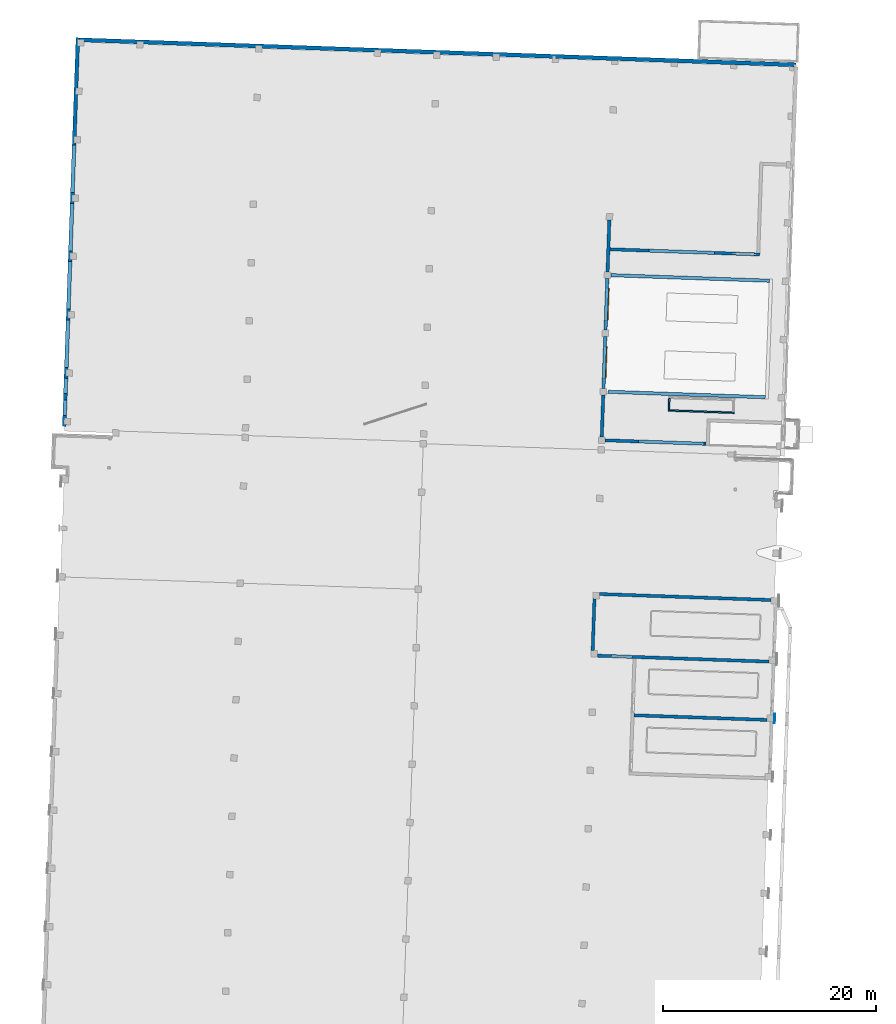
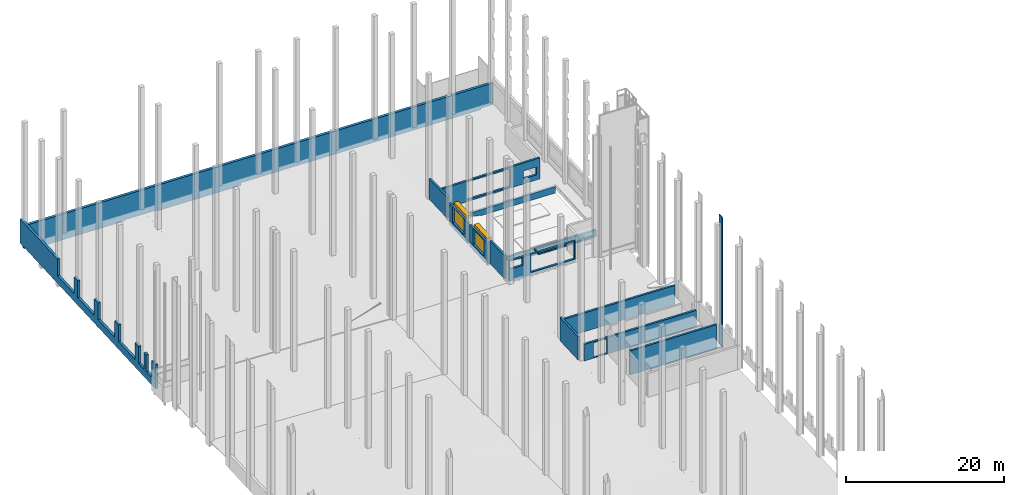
# One storey, part 34 of 44: 19 walls, 2 doors, 18 openings.
"""IFC2X3 building model written with IfcOpenShell, lengths in feet."""

from ifc_helpers import new_model, entity, si_unit, converted_unit, derived_unit, direction, frame, frame_2d, origin, origin_2d_with_axis, place, context, subcontext, project, spatial, polyline, rectangle, outline, extrude, clip, halfspace, source, transform, mapped, material, layer, layer_set, layer_usage, type_object, type_shapes, element, fill, save


model = new_model("IFC2X3")

# Units and contexts
model_context = context("Model", 3, precision=0.0001, world=origin(), true_north=direction((0.999390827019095, 0.0348994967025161)))
body_context = subcontext(model_context, "Body", "Model", "MODEL_VIEW")
ifc_project = project(units=[converted_unit("LENGTHUNIT", "FOOT", entity("IfcRatioMeasure", 0.3048), si_unit("LENGTHUNIT", "METRE"), dimensions=[1, 0, 0, 0, 0, 0, 0]), converted_unit("AREAUNIT", "SQUARE FOOT", entity("IfcRatioMeasure", 0.09290304), si_unit("AREAUNIT", "SQUARE_METRE"), dimensions=[2, 0, 0, 0, 0, 0, 0]), converted_unit("VOLUMEUNIT", "CUBIC FOOT", entity("IfcRatioMeasure", 0.028316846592), si_unit("VOLUMEUNIT", "CUBIC_METRE"), dimensions=[3, 0, 0, 0, 0, 0, 0]), converted_unit("PLANEANGLEUNIT", "DEGREE", entity("IfcRatioMeasure", 0.0174532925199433), si_unit("PLANEANGLEUNIT", "RADIAN"), dimensions=[0, 0, 0, 0, 0, 0, 0]), si_unit("MASSUNIT", "GRAM", prefix="KILO"), si_unit("TIMEUNIT", "SECOND"), si_unit("FREQUENCYUNIT", "HERTZ"), si_unit("THERMODYNAMICTEMPERATUREUNIT", "DEGREE_CELSIUS"), derived_unit("THERMALTRANSMITTANCEUNIT", [(si_unit("MASSUNIT", "GRAM", prefix="KILO"), 1), (si_unit("THERMODYNAMICTEMPERATUREUNIT", "KELVIN"), -1), (si_unit("TIMEUNIT", "SECOND"), -3)]), derived_unit("VOLUMETRICFLOWRATEUNIT", [(si_unit("LENGTHUNIT", "METRE"), 3), (si_unit("TIMEUNIT", "SECOND"), -1)]), si_unit("ELECTRICCURRENTUNIT", "AMPERE"), si_unit("ELECTRICVOLTAGEUNIT", "VOLT"), si_unit("POWERUNIT", "WATT"), si_unit("FORCEUNIT", "NEWTON"), si_unit("ILLUMINANCEUNIT", "LUX"), si_unit("LUMINOUSFLUXUNIT", "LUMEN"), si_unit("LUMINOUSINTENSITYUNIT", "CANDELA"), derived_unit("USERDEFINED", [(si_unit("MASSUNIT", "GRAM", prefix="KILO"), -1), (si_unit("LENGTHUNIT", "METRE"), -2), (si_unit("TIMEUNIT", "SECOND"), 3), (si_unit("LUMINOUSFLUXUNIT", "LUMEN"), 1)]), derived_unit("LINEARVELOCITYUNIT", [(si_unit("LENGTHUNIT", "METRE"), 1), (si_unit("TIMEUNIT", "SECOND"), -1)]), si_unit("PRESSUREUNIT", "PASCAL"), derived_unit("USERDEFINED", [(si_unit("LENGTHUNIT", "METRE"), -2), (si_unit("MASSUNIT", "GRAM", prefix="KILO"), 1), (si_unit("TIMEUNIT", "SECOND"), -2)])], contexts=[model_context])

# Site, building, storey
site_placement = place(None, frame((892.518771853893, 322.38689265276, 0.00393700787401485), z_axis=(0.0, 0.0, 1.0), x_axis=(0.0348994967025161, 0.999390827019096, 0.0)))
site = spatial("IfcSite", under=ifc_project, at=site_placement, Name="Default", CompositionType="ELEMENT")
building_placement = place(site_placement, origin())
building = spatial("IfcBuilding", under=site, at=building_placement, CompositionType="ELEMENT")
storey_placement = place(building_placement, frame((0.0, 0.0, 544.75)))
storey = spatial("IfcBuildingStorey", under=building, at=storey_placement, Name="Exist Garage - Ground Level", CompositionType="ELEMENT", Elevation=544.75)

# Wall, openings
ifc_material_1 = material(Name="Masonry - Brick")
ifc_layer_1 = layer(ifc_material_1, 0.302083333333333)
ifc_material_2 = material(Name="Misc. Air Layers - Air Space")
ifc_layer_2 = layer(ifc_material_2, 0.03125)
ifc_material_3 = material(Name="Concrete - Cast-in-Place Concrete_hatch surface")
ifc_layer_3 = layer(ifc_material_3, 0.833333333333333)
ifc_layer_set_1 = layer_set([ifc_layer_1, ifc_layer_2, ifc_layer_3], Name="Basic Wall:(existing)Exterior - Brick on Conc - 1'-2\"")
ifc_layer_usage_1 = layer_usage(ifc_layer_set_1, "AXIS2", "NEGATIVE", 0.583333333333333)
wall_type_1 = type_object("IfcWallType", Name="Basic Wall:(existing)Exterior - Brick on Conc - 1'-2\"", PredefinedType="STANDARD", material=ifc_layer_set_1)
wall_1_placement = place(storey_placement, frame((104.425420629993, 457.680620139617, 0.0)))
wall_1 = element("IfcWallStandardCase", 1, at=wall_1_placement, inside=storey, type_object=wall_type_1, material=ifc_layer_usage_1, Name="Basic Wall:(existing)Exterior - Brick on Conc - 1'-2\"", ObjectType="Basic Wall:(existing)Exterior - Brick on Conc - 1'-2\"", context=body_context, shape_type="SweptSolid", body=[
    extrude(rectangle(XDim=120.00187244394, YDim=1.16666666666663, at=frame_2d((60.00093622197, -3.21964677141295e-15), x_axis=(-1.0, 0.0))), origin(), (0.0, 0.0, 1.0), 12.25),
])
opening_1_placement = place(wall_1_placement, origin())
element("IfcOpeningElement", 2, at=opening_1_placement, cuts=wall_1, Name="Basic Wall:(existing)Exterior - Brick on Conc - 1'-2\"", ObjectType="Opening", context=body_context, shape_type="SweptSolid", body=[
    extrude(rectangle(XDim=8.44303385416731, YDim=14.6666666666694, at=frame_2d((-1.4210854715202e-14, -5.6843418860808e-14), x_axis=(0.0, 1.0))), frame((79.5018724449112, 0.583333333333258, 8.02848307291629), z_axis=(0.0, -1.0, 0.0), x_axis=(-1.0, 0.0, 0.0)), (0.0, 0.0, 1.0), 1.16666666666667),
])
opening_2_placement = place(wall_1_placement, origin())
element("IfcOpeningElement", 3, at=opening_2_placement, cuts=wall_1, Name="Basic Wall:(existing)Exterior - Brick on Conc - 1'-2\"", ObjectType="Opening", context=body_context, shape_type="SweptSolid", body=[
    extrude(rectangle(XDim=8.44303385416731, YDim=14.6666666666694, at=frame_2d((-1.4210854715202e-14, -5.6843418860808e-14), x_axis=(0.0, 1.0))), frame((61.5018724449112, 0.583333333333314, 8.02848307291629), z_axis=(0.0, -1.0, 0.0), x_axis=(-1.0, 0.0, 0.0)), (0.0, 0.0, 1.0), 1.16666666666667),
])
opening_3_placement = place(wall_1_placement, origin())
element("IfcOpeningElement", 4, at=opening_3_placement, cuts=wall_1, Name="Basic Wall:(existing)Exterior - Brick on Conc - 1'-2\"", ObjectType="Opening", context=body_context, shape_type="SweptSolid", body=[
    extrude(rectangle(XDim=8.44303385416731, YDim=14.6666666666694, at=frame_2d((1.4210854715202e-14, -5.6843418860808e-14), x_axis=(0.0, 1.0))), frame((43.5018724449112, 0.583333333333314, 8.02848307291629), z_axis=(0.0, -1.0, 0.0), x_axis=(-1.0, 0.0, 0.0)), (0.0, 0.0, 1.0), 1.16666666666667),
])
opening_4_placement = place(wall_1_placement, origin())
element("IfcOpeningElement", 5, at=opening_4_placement, cuts=wall_1, Name="Basic Wall:(existing)Exterior - Brick on Conc - 1'-2\"", ObjectType="Opening", context=body_context, shape_type="SweptSolid", body=[
    extrude(rectangle(XDim=8.44303385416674, YDim=14.6666666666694, at=frame_2d((-7.105427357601e-15, 0.0), x_axis=(0.0, 1.0))), frame((25.5018724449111, 0.583333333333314, 8.02848307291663), z_axis=(0.0, -1.0, 0.0), x_axis=(-1.0, 0.0, 0.0)), (0.0, 0.0, 1.0), 1.16666666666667),
])
opening_5_placement = place(wall_1_placement, origin())
element("IfcOpeningElement", 6, at=opening_5_placement, cuts=wall_1, Name="Basic Wall:(existing)Exterior - Brick on Conc - 1'-2\"", ObjectType="Opening", context=body_context, shape_type="SweptSolid", body=[
    extrude(rectangle(XDim=8.44303385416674, YDim=4.75093622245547, at=frame_2d((1.4210854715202e-14, 0.0), x_axis=(0.0, 1.0))), frame((12.4597376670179, 0.583333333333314, 8.02848307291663), z_axis=(0.0, -1.0, 0.0), x_axis=(-1.0, 0.0, 0.0)), (0.0, 0.0, 1.0), 1.16666666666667),
])
opening_6_placement = place(wall_1_placement, origin())
element("IfcOpeningElement", 7, at=opening_6_placement, cuts=wall_1, Name="Basic Wall:(existing)Exterior - Brick on Conc - 1'-2\"", ObjectType="Opening", context=body_context, shape_type="SweptSolid", body=[
    extrude(rectangle(XDim=8.44303385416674, YDim=4.75093622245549, at=frame_2d((0.0, 0.0), x_axis=(0.0, 1.0))), frame((5.70880144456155, 0.583333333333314, 8.02848307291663), z_axis=(0.0, -1.0, 0.0), x_axis=(-1.0, 0.0, 0.0)), (0.0, 0.0, 1.0), 1.16666666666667),
])

ifc_material_4 = material(Name="Concrete - Cast-in-Place Concrete")
ifc_layer_4 = layer(ifc_material_4, 1.25)
ifc_layer_set_2 = layer_set([ifc_layer_4], Name="Basic Wall:Exterior - Below Grade Conc 15\"")
ifc_layer_usage_2 = layer_usage(ifc_layer_set_2, "AXIS2", "NEGATIVE", 0.625)
wall_type_2 = type_object("IfcWallType", Name="Basic Wall:Exterior - Below Grade Conc 15\"", PredefinedType="STANDARD", material=ifc_layer_set_2)
wall_2_placement = place(storey_placement, frame((223.802293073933, 457.097286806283, -4.08000000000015), z_axis=(0.0, 0.0, 1.0), x_axis=(0.0, -1.0, 0.0)))
wall_2 = element("IfcWallStandardCase", 8, at=wall_2_placement, inside=storey, type_object=wall_type_2, material=ifc_layer_usage_2, Name="Basic Wall:Exterior - Below Grade Conc 15\"", ObjectType="Basic Wall:Exterior - Below Grade Conc 15\"", context=body_context, shape_type="Clipping", body=[
    clip(clip(clip(extrude(rectangle(XDim=221.249999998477, YDim=1.25, at=frame_2d((110.624999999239, -1.4432899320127e-15), x_axis=(-1.0, 0.0))), origin(), (0.0, 0.0, 1.0), 13.0500000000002), halfspace(frame((215.651041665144, 0.0, 1.33000000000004), z_axis=(0.0117361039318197, 0.0, -0.999931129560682), x_axis=(0.0, -1.0, 0.0)), False)), halfspace(frame((5.33333333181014, 0.0, 0.0), z_axis=(-0.239574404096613, 0.0, -0.970878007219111), x_axis=(0.0, -1.0, 0.0)), False)), halfspace(frame((221.249999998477, 0.0, 2.06000000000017), z_axis=(0.129287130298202, 0.0, -0.99160719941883), x_axis=(0.0, -1.0, 0.0)), False)),
])
opening_7_placement = place(wall_2_placement, origin())
element("IfcOpeningElement", 9, at=opening_7_placement, cuts=wall_2, Name="Basic Wall:Exterior - Below Grade Conc 15\"", ObjectType="Opening", context=body_context, shape_type="SweptSolid", body=[
    extrude(outline(polyline([(-3.73263888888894, -0.243333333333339), (1.86631944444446, -0.243333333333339), (1.86631944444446, 0.486666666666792), (-3.73263888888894, -0.243333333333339)])), frame((217.517361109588, 0.625000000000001, 1.81666666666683), z_axis=(0.0, -1.0, 0.0), x_axis=(-1.0, 0.0, 0.0)), (0.0, 0.0, 1.0), 1.25),
])
opening_8_placement = place(wall_2_placement, origin())
element("IfcOpeningElement", 10, at=opening_8_placement, cuts=wall_2, Name="Basic Wall:Exterior - Below Grade Conc 15\"", ObjectType="Opening", context=body_context, shape_type="SweptSolid", body=[
    extrude(outline(polyline([(-75.5451388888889, -0.443333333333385), (37.7725694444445, -0.443333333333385), (37.7725694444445, 0.886666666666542), (-75.5451388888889, -0.443333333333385)])), frame((140.105902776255, 0.624999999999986, 0.886666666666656), z_axis=(0.0, -1.0, 0.0), x_axis=(-1.0, 0.0, 0.0)), (0.0, 0.0, 1.0), 1.25),
])
opening_9_placement = place(wall_2_placement, origin())
element("IfcOpeningElement", 11, at=opening_9_placement, cuts=wall_2, Name="Basic Wall:Exterior - Below Grade Conc 15\"", ObjectType="Opening", context=body_context, shape_type="SweptSolid", body=[
    extrude(rectangle(XDim=0.500000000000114, YDim=16.0000000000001, at=frame_2d((-5.6843418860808e-14, 2.8421709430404e-14), x_axis=(1.0, 0.0))), frame((55.3333333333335, 0.625000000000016, 0.250000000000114), z_axis=(0.0, -1.0, 0.0), x_axis=(0.0, 0.0, 1.0)), (0.0, 0.0, 1.0), 1.25),
])
opening_10_placement = place(wall_2_placement, origin())
element("IfcOpeningElement", 12, at=opening_10_placement, cuts=wall_2, Name="Basic Wall:Exterior - Below Grade Conc 15\"", ObjectType="Opening", context=body_context, shape_type="SweptSolid", body=[
    extrude(outline(polyline([(-0.973333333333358, -1.9722222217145), (0.486666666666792, -1.9722222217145), (0.486666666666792, 3.94444444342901), (-0.973333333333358, -1.9722222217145)])), frame((3.36111111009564, 0.624999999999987, 0.973333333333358), z_axis=(0.0, -1.0, 0.0), x_axis=(0.0, 0.0, 1.0)), (0.0, 0.0, 1.0), 1.25),
])

# Walls
ifc_layer_5 = layer(ifc_material_1, 0.302083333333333)
ifc_layer_set_3 = layer_set([ifc_layer_5], Name="Basic Wall:(Existing) Exterior - Brick Veneer 3 5/8\"")
ifc_layer_usage_3 = layer_usage(ifc_layer_set_3, "AXIS2", "POSITIVE", -0.151041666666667)
wall_type_3 = type_object("IfcWallType", Name="Basic Wall:(Existing) Exterior - Brick Veneer 3 5/8\"", PredefinedType="STANDARD", material=ifc_layer_set_3)
wall_3_placement = place(storey_placement, frame((20.4272542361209, 235.41499514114, 0.0)))
element("IfcWallStandardCase", 13, at=wall_3_placement, inside=storey, type_object=wall_type_3, material=ifc_layer_usage_3, Name="Basic Wall:(Existing) Exterior - Brick Veneer 3 5/8\"", ObjectType="Basic Wall:(Existing) Exterior - Brick Veneer 3 5/8\"", context=body_context, shape_type="SweptSolid", body=[
    extrude(rectangle(XDim=3.00000000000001, YDim=0.302083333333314, at=frame_2d((1.50000000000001, 0.0), x_axis=(-1.0, 0.0))), origin(), (0.0, 0.0, 1.0), 65.8125),
])
ifc_layer_6 = layer(ifc_material_3, 1.0)
ifc_layer_set_4 = layer_set([ifc_layer_6], Name="Basic Wall:(existing)Exterior - 12\" Conc")
ifc_layer_usage_4 = layer_usage(ifc_layer_set_4, "AXIS2", "POSITIVE", -0.5)
wall_type_4 = type_object("IfcWallType", Name="Basic Wall:(existing)Exterior - 12\" Conc", PredefinedType="STANDARD", material=ifc_layer_set_4)
wall_4_placement = place(storey_placement, frame((157.927293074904, 291.765300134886, -1.0)))
element("IfcWallStandardCase", 14, at=wall_4_placement, inside=storey, type_object=wall_type_4, material=ifc_layer_usage_4, Name="Basic Wall:(existing)Exterior - 12\" Conc", ObjectType="Basic Wall:(existing)Exterior - 12\" Conc", context=body_context, shape_type="Clipping", body=[
    clip(extrude(rectangle(XDim=16.0, YDim=1.0, at=frame_2d((8.0, 0.0), x_axis=(-1.0, 0.0))), origin(), (0.0, 0.0, 1.0), 10.8623073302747), halfspace(frame((0.0, -0.5, 10.8623073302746), z_axis=(0.0347362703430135, 0.0, 0.999396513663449), x_axis=(0.0, 1.0, 0.0)), False)),
])
ifc_layer_usage_5 = layer_usage(ifc_layer_set_4, "AXIS2", "POSITIVE", -0.5)
wall_5_placement = place(storey_placement, frame((106.927293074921, 291.764351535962, -0.333333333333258)))
element("IfcWallStandardCase", 15, at=wall_5_placement, inside=storey, type_object=wall_type_4, material=ifc_layer_usage_5, Name="Basic Wall:(existing)Exterior - 12\" Conc", ObjectType="Basic Wall:(existing)Exterior - 12\" Conc", context=body_context, shape_type="Clipping", body=[
    clip(extrude(rectangle(XDim=12.9999999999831, YDim=1.0, at=frame_2d((6.49999999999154, 0.0), x_axis=(-1.0, 0.0))), origin(), (0.0, 0.0, 1.0), 11.9617458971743), halfspace(frame((0.0, -0.5, 11.9617458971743), z_axis=(0.0348994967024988, 0.0, 0.999390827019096), x_axis=(0.0, 1.0, 0.0)), False)),
])
ifc_material_5 = material(Name="Masonry - Concrete Masonry Units")
ifc_layer_7 = layer(ifc_material_5, 0.96875)
ifc_layer_set_5 = layer_set([ifc_layer_7], Name="Basic Wall:Interior - (C12) 12\" cmu")
ifc_layer_usage_6 = layer_usage(ifc_layer_set_5, "AXIS2", "NEGATIVE", 0.484375)
wall_type_5 = type_object("IfcWallType", Name="Basic Wall:Interior - (C12) 12\" cmu", PredefinedType="STANDARD", material=ifc_layer_set_5)
wall_6_placement = place(storey_placement, frame((58.4428792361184, 237.763953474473, -0.612544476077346), z_axis=(0.0, 0.0, 1.0), x_axis=(0.0, 1.0, 0.0)))
element("IfcWallStandardCase", 16, at=wall_6_placement, inside=storey, type_object=wall_type_5, material=ifc_layer_usage_6, Name="Basic Wall:Interior - (C12) 12\" cmu", ObjectType="Basic Wall:Interior - (C12) 12\" cmu", context=body_context, shape_type="SweptSolid", body=[
    extrude(rectangle(XDim=53.0, YDim=0.96875, at=frame_2d((26.5, 0.0), x_axis=(-1.0, 0.0))), origin(), (0.0, 0.0, 1.0), 9.49848961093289),
])
ifc_layer_usage_7 = layer_usage(ifc_layer_set_5, "AXIS2", "NEGATIVE", 0.484375)
wall_7_placement = place(storey_placement, frame((56.9272542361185, 292.279578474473, -0.416666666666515), z_axis=(0.0, 0.0, 1.0), x_axis=(-1.0, 0.0, 0.0)))
element("IfcWallStandardCase", 17, at=wall_7_placement, inside=storey, type_object=wall_type_5, material=ifc_layer_usage_7, Name="Basic Wall:Interior - (C12) 12\" cmu", ObjectType="Basic Wall:Interior - (C12) 12\" cmu", context=body_context, shape_type="SweptSolid", body=[
    extrude(rectangle(XDim=16.0, YDim=0.96875, at=frame_2d((8.0, 0.0), x_axis=(-1.0, 0.0))), origin(), (0.0, 0.0, 1.0), 11.8498357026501),
])

# Wall, opening
ifc_layer_usage_8 = layer_usage(ifc_layer_set_5, "AXIS2", "POSITIVE", -0.484375)
wall_8_placement = place(storey_placement, frame((39.4116292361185, 290.763953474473, -0.416666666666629), z_axis=(0.0, 0.0, 1.0), x_axis=(0.0, -1.0, 0.0)))
wall_8 = element("IfcWallStandardCase", 18, at=wall_8_placement, inside=storey, type_object=wall_type_5, material=ifc_layer_usage_8, Name="Basic Wall:Interior - (C12) 12\" cmu", ObjectType="Basic Wall:Interior - (C12) 12\" cmu", context=body_context, shape_type="SweptSolid", body=[
    extrude(rectangle(XDim=53.0000000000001, YDim=0.96875, at=frame_2d((26.5, 0.0), x_axis=(-1.0, 0.0))), origin(), (0.0, 0.0, 1.0), 8.4012032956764),
])
opening_11_placement = place(wall_8_placement, frame((10.6666666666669, 0.484374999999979, 0.416666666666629)))
element("IfcOpeningElement", 19, at=opening_11_placement, cuts=wall_8, Name="Exterior Double Flush:6'-0\" x 7'-0\" Metal_5.75\" x 4\":1", ObjectType="Opening", context=body_context, shape_type="SweptSolid", body=[
    extrude(rectangle(XDim=6.33333333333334, YDim=7.33333333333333, at=frame_2d((3.66666666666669, 3.16666666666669), x_axis=(0.0, -1.0))), frame((0.0, 0.0, 0.0), z_axis=(0.0, -1.0, 0.0), x_axis=(0.0, 0.0, 1.0)), (0.0, 0.0, 1.0), 0.96875),
])

# Wall
ifc_layer_usage_9 = layer_usage(ifc_layer_set_5, "AXIS2", "POSITIVE", -0.484375)
wall_9_placement = place(storey_placement, frame((21.4116292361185, 278.795203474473, -0.343615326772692), z_axis=(0.0, 0.0, 1.0), x_axis=(0.0, -1.0, 0.0)))
element("IfcWallStandardCase", 20, at=wall_9_placement, inside=storey, type_object=wall_type_5, material=ifc_layer_usage_9, Name="Basic Wall:Interior - (C12) 12\" cmu", ObjectType="Basic Wall:Interior - (C12) 12\" cmu", context=body_context, shape_type="SweptSolid", body=[
    extrude(rectangle(XDim=41.0312499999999, YDim=0.96875, at=frame_2d((20.5156249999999, -7.49400541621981e-16), x_axis=(-1.0, 0.0))), origin(), (0.0, 0.0, 1.0), 12.1769486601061),
])

# Wall, openings
ifc_layer_usage_10 = layer_usage(ifc_layer_set_5, "AXIS2", "NEGATIVE", 0.484375)
wall_10_placement = place(storey_placement, frame((105.927293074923, 259.477165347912, -1.0776113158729), z_axis=(0.0, 0.0, 1.0), x_axis=(0.0, 1.0, 0.0)))
wall_10 = element("IfcWallStandardCase", 21, at=wall_10_placement, inside=storey, type_object=wall_type_5, material=ifc_layer_usage_10, Name="Basic Wall:Interior - (C12) 12\" cmu", ObjectType="Basic Wall:Interior - (C12) 12\" cmu", context=body_context, shape_type="SweptSolid", body=[
    extrude(rectangle(XDim=31.2867881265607, YDim=0.96875, at=frame_2d((15.6433940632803, -3.49720252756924e-15), x_axis=(-1.0, 0.0))), origin(), (0.0, 0.0, 1.0), 10.3575592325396),
])
opening_12_placement = place(wall_10_placement, origin())
element("IfcOpeningElement", 22, at=opening_12_placement, cuts=wall_10, Name="Basic Wall:Interior - (C12) 12\" cmu", ObjectType="Opening", context=body_context, shape_type="SweptSolid", body=[
    extrude(rectangle(XDim=9.0, YDim=20.3333333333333, at=frame_2d((-2.8421709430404e-14, 0.0), x_axis=(0.0, 1.0))), frame((10.7867881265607, -5.48437500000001, 5.74427798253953), z_axis=(0.0, 1.0, 0.0), x_axis=(1.0, 0.0, 0.0)), (0.0, 0.0, 1.0), 10.0),
])
opening_13_placement = place(wall_10_placement, origin())
element("IfcOpeningElement", 23, at=opening_13_placement, cuts=wall_10, Name="Basic Wall:Interior - (C12) 12\" cmu", ObjectType="Opening", context=body_context, shape_type="SweptSolid", body=[
    extrude(rectangle(XDim=4.0, YDim=6.0, at=origin_2d_with_axis()), frame((27.9534547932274, -4.515625, 8.0776113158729), z_axis=(0.0, 1.0, 0.0), x_axis=(0.0, 0.0, -1.0)), (0.0, 0.0, 1.0), 10.0),
])

# Wall, opening, door
ifc_layer_usage_11 = layer_usage(ifc_layer_set_5, "AXIS2", "NEGATIVE", 0.484375)
wall_11_placement = place(storey_placement, frame((121.927293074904, 291.763953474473, -0.584424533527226)))
wall_11 = element("IfcWallStandardCase", 24, at=wall_11_placement, inside=storey, type_object=wall_type_5, material=ifc_layer_usage_11, Name="Basic Wall:Interior - (C12) 12\" cmu", ObjectType="Basic Wall:Interior - (C12) 12\" cmu", context=body_context, shape_type="Clipping", body=[
    clip(clip(extrude(rectangle(XDim=16.0, YDim=0.96875, at=frame_2d((7.99999999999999, 0.0), x_axis=(-1.0, 0.0))), origin(), (0.0, 0.0, 1.0), 9.32618654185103), halfspace(frame((16.0, -0.484375, 0.0), z_axis=(-0.0126943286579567, 0.0, -0.999919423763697), x_axis=(0.0, 1.0, 0.0)), False)), halfspace(frame((0.0, -0.484375, 9.32618654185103), z_axis=(0.0366420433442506, 0.0, 0.99932845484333), x_axis=(0.0, 1.0, 0.0)), False)),
])
opening_14_placement = place(wall_11_placement, frame((13.0, 0.484375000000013, 0.584424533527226)))
opening_14 = element("IfcOpeningElement", 25, at=opening_14_placement, cuts=wall_11, Name="Overhead-Rolling:8' x 10'-0\":1", ObjectType="Opening", context=body_context, shape_type="SweptSolid", body=[
    extrude(rectangle(XDim=7.99999999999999, YDim=10.0, at=frame_2d((4.0, 5.0), x_axis=(1.0, 0.0))), frame((0.0, 0.0, 0.0), z_axis=(0.0, -1.0, 0.0), x_axis=(0.0, 0.0, 1.0)), (0.0, 0.0, 1.0), 0.96875),
])
ifc_material_6 = material(Name="Metal - Paint Finish - Ivory, Matte")
door_style = type_object("IfcDoorStyle", Name="8' x 10'-0\"", ConstructionType="NOTDEFINED", OperationType="NOTDEFINED", ParameterTakesPrecedence=False, Sizeable=False, material=ifc_material_6)
shared_shape = source(origin(), body_context, "Body", "SweptSolid", [
    extrude(rectangle(XDim=0.25, YDim=10.0, at=origin_2d_with_axis()), frame((5.0, -0.12499999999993, 0.0), z_axis=(0.0, 0.0, 1.0), x_axis=(0.0, -1.0, 0.0)), (0.0, 0.0, 1.0), 7.99999999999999),
    extrude(rectangle(XDim=11.3333333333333, YDim=2.08333333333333, at=frame_2d((0.0, -1.11022302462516e-16), x_axis=(1.0, 0.0))), frame((5.0, -1.0416666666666, 8.0)), (0.0, 0.0, 1.0), 1.49999999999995),
])
type_shapes(door_style, [shared_shape])
door_1_placement = place(opening_14_placement, frame((-10.0, -0.968750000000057, 0.0)))
door_1 = element("IfcDoor", 26, at=door_1_placement, inside=storey, type_object=door_style, material=ifc_material_6, Name="Overhead-Rolling:8' x 10'-0\"", ObjectType="8' x 10'-0\"", OverallHeight=8.0, OverallWidth=10.0, context=body_context, shape_type="MappedRepresentation", body=[
    mapped(shared_shape, transform((0.0, 0.0, 0.0), scale=1.0)),
])
fill(opening_14, door_1)

ifc_layer_usage_12 = layer_usage(ifc_layer_set_5, "AXIS2", "NEGATIVE", 0.484375)
wall_12_placement = place(storey_placement, frame((139.927293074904, 291.763953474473, -0.822302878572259)))
wall_12 = element("IfcWallStandardCase", 27, at=wall_12_placement, inside=storey, type_object=wall_type_5, material=ifc_layer_usage_12, Name="Basic Wall:Interior - (C12) 12\" cmu", ObjectType="Basic Wall:Interior - (C12) 12\" cmu", context=body_context, shape_type="Clipping", body=[
    clip(extrude(rectangle(XDim=16.0, YDim=0.96875, at=frame_2d((8.0, 0.0), x_axis=(-1.0, 0.0))), origin(), (0.0, 0.0, 1.0), 8.90466758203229), halfspace(frame((16.0, -0.484375, 0.0), z_axis=(-0.0132448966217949, 0.0, -0.99991228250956), x_axis=(0.0, 1.0, 0.0)), False)),
])
opening_15_placement = place(wall_12_placement, frame((13.0, 0.484375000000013, 0.822302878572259)))
opening_15 = element("IfcOpeningElement", 28, at=opening_15_placement, cuts=wall_12, Name="Overhead-Rolling:8' x 10'-0\":1", ObjectType="Opening", context=body_context, shape_type="SweptSolid", body=[
    extrude(rectangle(XDim=7.99999999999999, YDim=10.0, at=frame_2d((4.0, 5.0), x_axis=(1.0, 0.0))), frame((0.0, 0.0, 0.0), z_axis=(0.0, -1.0, 0.0), x_axis=(0.0, 0.0, 1.0)), (0.0, 0.0, 1.0), 0.96875),
])
door_2_placement = place(opening_15_placement, frame((-10.0, -0.968750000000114, 0.0)))
door_2 = element("IfcDoor", 29, at=door_2_placement, inside=storey, type_object=door_style, material=ifc_material_6, Name="Overhead-Rolling:8' x 10'-0\"", ObjectType="8' x 10'-0\"", OverallHeight=8.0, OverallWidth=10.0, context=body_context, shape_type="MappedRepresentation", body=[
    mapped(shared_shape, transform((0.0, 0.0, 0.0), scale=1.0)),
])
fill(opening_15, door_2)

# Wall, openings
ifc_layer_usage_13 = layer_usage(ifc_layer_set_5, "AXIS2", "NEGATIVE", 0.484375)
wall_13_placement = place(storey_placement, frame((164.906598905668, 291.265300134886, -0.926601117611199), z_axis=(0.0, 0.0, 1.0), x_axis=(0.0, -1.0, 0.0)))
wall_13 = element("IfcWallStandardCase", 30, at=wall_13_placement, inside=storey, type_object=wall_type_5, material=ifc_layer_usage_13, Name="Basic Wall:Interior - (C12) 12\" cmu", ObjectType="Basic Wall:Interior - (C12) 12\" cmu", context=body_context, shape_type="Clipping", body=[
    clip(clip(extrude(rectangle(XDim=46.2639933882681, YDim=0.96875, at=frame_2d((23.131996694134, 1.49880108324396e-15), x_axis=(-1.0, 0.0))), origin(), (0.0, 0.0, 1.0), 11.1837966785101), halfspace(frame((46.2639933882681, -0.484375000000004, 0.479004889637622), z_axis=(0.0103531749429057, 0.0, -0.999946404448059), x_axis=(0.0, 1.0, 0.0)), False)), halfspace(frame((0.0, -0.484375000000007, 10.496528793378), z_axis=(-0.0148537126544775, 0.0, 0.999889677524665), x_axis=(0.0, 1.0, 0.0)), False)),
])
opening_16_placement = place(wall_13_placement, origin())
element("IfcOpeningElement", 31, at=opening_16_placement, cuts=wall_13, Name="Basic Wall:Interior - (C12) 12\" cmu", ObjectType="Opening", context=body_context, shape_type="SweptSolid", body=[
    extrude(rectangle(XDim=9.0, YDim=20.3333333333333, at=frame_2d((0.0, 2.8421709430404e-14), x_axis=(1.0, 0.0))), frame((22.1666666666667, -4.51562499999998, 5.59326778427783), z_axis=(0.0, 1.0, 0.0), x_axis=(0.0, 0.0, -1.0)), (0.0, 0.0, 1.0), 10.0),
])
opening_17_placement = place(wall_13_placement, origin())
element("IfcOpeningElement", 32, at=opening_17_placement, cuts=wall_13, Name="Basic Wall:Interior - (C12) 12\" cmu", ObjectType="Opening", context=body_context, shape_type="SweptSolid", body=[
    extrude(rectangle(XDim=4.0, YDim=6.0, at=frame_2d((0.0, 0.0), x_axis=(0.0, 1.0))), frame((41.6590185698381, -5.48437500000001, 5.01514278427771), z_axis=(0.0, 1.0, 0.0), x_axis=(1.0, 0.0, 0.0)), (0.0, 0.0, 1.0), 10.0),
])

# Wall, opening
ifc_layer_8 = layer(ifc_material_4, 1.0)
ifc_layer_set_6 = layer_set([ifc_layer_8], Name="Basic Wall:Exterior - Below Grade Conc 12\"")
ifc_layer_usage_14 = layer_usage(ifc_layer_set_6, "AXIS2", "NEGATIVE", 0.5)
wall_type_6 = type_object("IfcWallType", Name="Basic Wall:Exterior - Below Grade Conc 12\"", PredefinedType="STANDARD", material=ifc_layer_set_6)
wall_14_placement = place(storey_placement, frame((156.927386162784, 290.718492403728, -3.68666666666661), z_axis=(0.0, 0.0, 1.0), x_axis=(0.0, -1.0, 0.0)))
wall_14 = element("IfcWallStandardCase", 33, at=wall_14_placement, inside=storey, type_object=wall_type_6, material=ifc_layer_usage_14, Name="Basic Wall:Exterior - Below Grade Conc 12\"", ObjectType="Basic Wall:Exterior - Below Grade Conc 12\"", context=body_context, shape_type="Clipping", body=[
    clip(clip(clip(extrude(rectangle(XDim=48.9545389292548, YDim=1.0, at=frame_2d((24.4772694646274, -2.88657986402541e-15), x_axis=(-1.0, 0.0))), origin(), (0.0, 0.0, 1.0), 3.26999999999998), halfspace(frame((0.0, -0.499999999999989, 2.8538913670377), z_axis=(-0.00850230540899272, 0.0, 0.999963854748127), x_axis=(0.0, 1.0, 0.0)), False)), halfspace(frame((13.949330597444, -0.499999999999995, 0.0), z_axis=(-0.200437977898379, 0.0, -0.979706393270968), x_axis=(0.0, 1.0, 0.0)), False)), halfspace(frame((48.9545389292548, 0.0, 1.68666666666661), z_axis=(0.999951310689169, 0.0, 0.00986794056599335), x_axis=(0.0, 1.0, 0.0)), False)),
])
opening_18_placement = place(wall_14_placement, origin())
element("IfcOpeningElement", 34, at=opening_18_placement, cuts=wall_14, Name="Basic Wall:Exterior - Below Grade Conc 12\"", ObjectType="Opening", context=body_context, shape_type="SweptSolid", body=[
    extrude(outline(polyline([(-0.527854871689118, -0.00520807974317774), (1.05555555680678, -0.00520807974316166), (-0.527700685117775, 0.0104161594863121), (-0.527854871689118, -0.00520807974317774)])), frame((48.9441222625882, 0.500000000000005, 2.21444444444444), z_axis=(0.0, -1.0, 0.0), x_axis=(-0.00986794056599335, 0.0, 0.999951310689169)), (0.0, 0.0, 1.0), 1.0),
])

# Walls
ifc_layer_usage_15 = layer_usage(ifc_layer_set_6, "AXIS2", "NEGATIVE", 0.5)
wall_15_placement = place(storey_placement, frame((120.927386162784, 290.263953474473, -3.68666666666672), z_axis=(0.0, 0.0, 1.0), x_axis=(0.0, -1.0, 0.0)))
element("IfcWallStandardCase", 35, at=wall_15_placement, inside=storey, type_object=wall_type_6, material=ifc_layer_usage_15, Name="Basic Wall:Exterior - Below Grade Conc 12\"", ObjectType="Basic Wall:Exterior - Below Grade Conc 12\"", context=body_context, shape_type="Clipping", body=[
    clip(clip(extrude(rectangle(XDim=48.4999999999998, YDim=1.0, at=frame_2d((24.2499999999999, -3.24740234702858e-15), x_axis=(-1.0, 0.0))), origin(), (0.0, 0.0, 1.0), 3.45711201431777), halfspace(frame((0.0, -0.500000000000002, 3.30533854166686), z_axis=(-0.00312933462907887, 0.0, 0.999995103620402), x_axis=(0.0, 1.0, 0.0)), False)), halfspace(frame((14.0, -0.500000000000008, 0.0), z_axis=(-0.229778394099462, 0.0, -0.973242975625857), x_axis=(0.0, 1.0, 0.0)), False)),
])
ifc_layer_usage_16 = layer_usage(ifc_layer_set_6, "AXIS2", "NEGATIVE", 0.5)
wall_16_placement = place(storey_placement, frame((121.927293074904, 291.763953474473, -2.75)))
element("IfcWallStandardCase", 36, at=wall_16_placement, inside=storey, type_object=wall_type_6, material=ifc_layer_usage_16, Name="Basic Wall:Exterior - Below Grade Conc 12\"", ObjectType="Basic Wall:Exterior - Below Grade Conc 12\"", context=body_context, shape_type="Clipping", body=[
    clip(extrude(rectangle(XDim=16.0, YDim=1.0, at=frame_2d((7.99999999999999, 0.0), x_axis=(-1.0, 0.0))), origin(), (0.0, 0.0, 1.0), 2.36870109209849), halfspace(frame((0.0, -0.5, 2.36870109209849), z_axis=(0.0126943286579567, 0.0, 0.999919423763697), x_axis=(0.0, 1.0, 0.0)), False)),
])
ifc_layer_usage_17 = layer_usage(ifc_layer_set_6, "AXIS2", "POSITIVE", -0.5)
wall_17_placement = place(storey_placement, frame((155.927293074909, 291.763953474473, -2.75), z_axis=(0.0, 0.0, 1.0), x_axis=(-1.0, 0.0, 0.0)))
element("IfcWallStandardCase", 37, at=wall_17_placement, inside=storey, type_object=wall_type_6, material=ifc_layer_usage_17, Name="Basic Wall:Exterior - Below Grade Conc 12\"", ObjectType="Basic Wall:Exterior - Below Grade Conc 12\"", context=body_context, shape_type="Clipping", body=[
    clip(extrude(rectangle(XDim=16.0, YDim=1.0, at=frame_2d((7.99999999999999, 0.0), x_axis=(-1.0, 0.0))), origin(), (0.0, 0.0, 1.0), 2.13963405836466), halfspace(frame((0.0, -0.5, 1.92769712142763), z_axis=(-0.0132448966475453, 0.0, 0.999912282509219), x_axis=(0.0, 1.0, 0.0)), False)),
])
ifc_layer_9 = layer(ifc_material_4, 0.5)
ifc_layer_set_7 = layer_set([ifc_layer_9], Name="Basic Wall:Exterior - Conc 6\"")
ifc_layer_usage_18 = layer_usage(ifc_layer_set_7, "AXIS2", "NEGATIVE", 0.25)
wall_type_7 = type_object("IfcWallType", Name="Basic Wall:Exterior - Conc 6\"", PredefinedType="STANDARD", material=ifc_layer_set_7)
wall_18_placement = place(storey_placement, frame((115.81685518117, 251.219836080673, -0.190224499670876), z_axis=(0.0, 0.0, 1.0), x_axis=(0.0, 1.0, 0.0)))
element("IfcWallStandardCase", 38, at=wall_18_placement, inside=storey, type_object=wall_type_7, material=ifc_layer_usage_18, Name="Basic Wall:Exterior - Conc 6\"", ObjectType="Basic Wall:Exterior - Conc 6\"", context=body_context, shape_type="SweptSolid", body=[
    extrude(rectangle(XDim=20.375, YDim=0.5, at=frame_2d((10.1875, 7.49400541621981e-16), x_axis=(-1.0, 0.0))), origin(), (0.0, 0.0, 1.0), 0.690224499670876),
])
ifc_layer_usage_19 = layer_usage(ifc_layer_set_7, "AXIS2", "NEGATIVE", 0.25)
wall_19_placement = place(storey_placement, frame((116.06685518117, 271.344836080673, -0.259594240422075)))
element("IfcWallStandardCase", 39, at=wall_19_placement, inside=storey, type_object=wall_type_7, material=ifc_layer_usage_19, Name="Basic Wall:Exterior - Conc 6\"", ObjectType="Basic Wall:Exterior - Conc 6\"", context=body_context, shape_type="SweptSolid", body=[
    extrude(rectangle(XDim=3.50000000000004, YDim=0.5, at=frame_2d((1.75000000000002, 0.0), x_axis=(-1.0, 0.0))), origin(), (0.0, 0.0, 1.0), 0.759594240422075),
])

save(model, "model.ifc")
